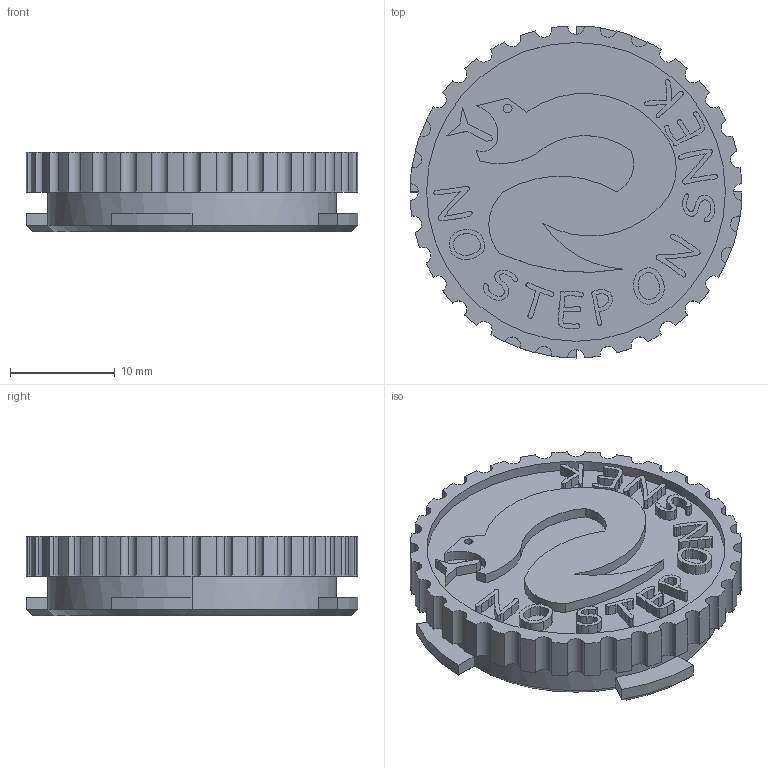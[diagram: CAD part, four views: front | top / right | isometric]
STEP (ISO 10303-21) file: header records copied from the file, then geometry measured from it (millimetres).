
FILE_DESCRIPTION (( 'STEP AP203' ), '1' );
FILE_NAME ('AF-HF-TK-PRT-009-STEP_NO_STEP_ON_SNEK.STEP', '2020-12-04T15:36:49', ( '' ), ( '' ), 'SwSTEP 2.0', 'SolidWorks 2018', '' );
FILE_SCHEMA (( 'CONFIG_CONTROL_DESIGN' ));
Length unit declared in the file: inch
Products named in the file (1): AF-HF-TK-PRT-009-STEP_NO_STEP_ON_SNEK
Bounding box: 31.75 x 31.75 x 7.62 mm (x, y, z)
Volume: 3888.2 mm3; surface area: 2957.2 mm2
Topology: 1 solids, 1 shells, 471 faces, 1320 edges, 872 vertices
Faces by surface type: bspline 272, cylinder 104, plane 80, cone 13, sphere 2
Entity records: 24045 total; most frequent: CARTESIAN_POINT 13535, ORIENTED_EDGE 2640, DIRECTION 1389, EDGE_CURVE 1320, VERTEX_POINT 872, B_SPLINE_CURVE_WITH_KNOTS 560, LINE 531, VECTOR 531
